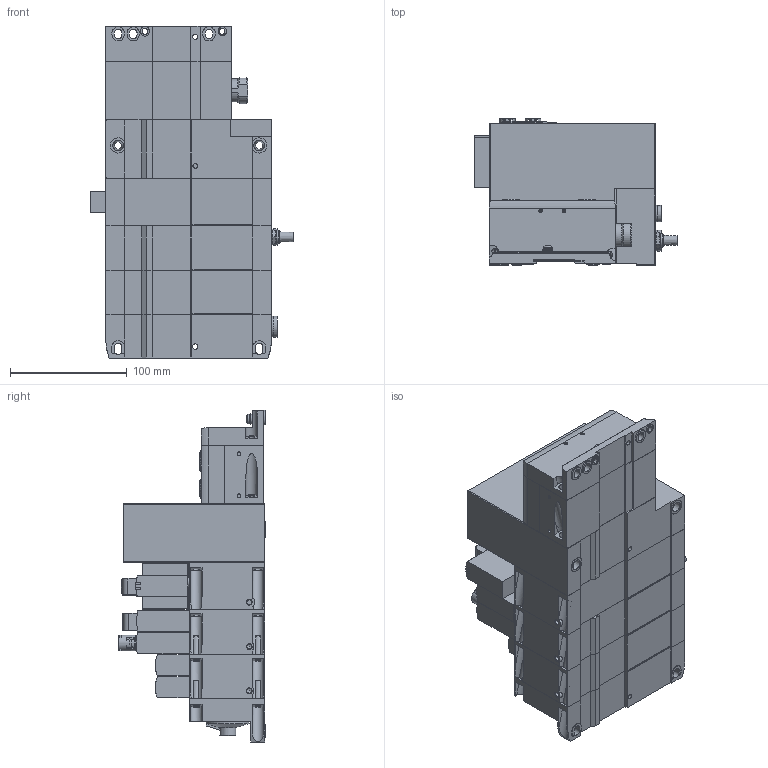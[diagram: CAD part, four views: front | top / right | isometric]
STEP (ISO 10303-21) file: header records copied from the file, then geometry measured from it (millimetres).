
FILE_DESCRIPTION( ( 'STEP AP214' ), '1' );
FILE_NAME( 'p:/temp/worker_1244/temp/exporttempdir_4800_268_Q95se/format_0/Configuration09_8073100_51E-F33GCQP-RC.stp', '2020-07-23T14:51:16', ( 'License CC BY-ND 4.0' ), ( 'CADENAS' ), ' ', 'PARTsolutions', ' ' );
FILE_SCHEMA( ( 'AUTOMOTIVE_DESIGN { 1 0 10303 214 1 1 1 1 }' ) );
Length unit declared in the file: millimetre
Products named in the file (19): 8073100 51E-F33GCQP-RC 46P-B-YZCB-PVPNNGWOGWZQZYBA-CSJLL; HI_8068240 VABA-S6-1-X2-F1-CB---(EPL); HI_8068609 VABV-S6-1Q-G38-CB1-T5---(VKPL_0); _8067405 VABF-S6-1-P5A4S2YE-G12-1T5-PA---(high); _174308 B-M5-B---(VCB); _8068913 VABV-S4-2HS-G18-CB-2T5---(VKPL_0); _3568 B-1/8---(VCB); HI_8066569 VSVA-BT-M32CS1-MYE-A2-1T5L-PA---(VT4617); _1205860 AMTE-M-LH-G18---(VCB); HI_8033450 VSVA-B-B52-ZTR-A2-1T1L---(VT462); _4105147 VAMC-B-S6-CTR---(vtsa_kappe); _8067932 VABV-S4-2HS-G18-CB-2T2---(VKPL_0); HI_539213 VABB-S4-2-WT---(VT465); _539238 VABE-S6-1RZ-G-B1---(PL); _3569 B-1/4---(VCBE); HI_550212 CPX-M-EPL-EV---(EPL_51E); HI_550208 CPX-M-GE-EV-S-7/8-5POL---(EV); HI_548755 CPX-FB33---(EA); HI_548757 CPX-AK-P---(g_2_1)
Assembly tree (20 placements, depth 2):
  8073100 51E-F33GCQP-RC 46P-B-YZCB-PVPNNGWOGWZQZYBA-CSJLL
    HI_8068240 VABA-S6-1-X2-F1-CB---(EPL)
    HI_8068609 VABV-S6-1Q-G38-CB1-T5---(VKPL_0)
    _8067405 VABF-S6-1-P5A4S2YE-G12-1T5-PA---(high)
    _174308 B-M5-B---(VCB)
    _8068913 VABV-S4-2HS-G18-CB-2T5---(VKPL_0)
    _3568 B-1/8---(VCB)
    HI_8066569 VSVA-BT-M32CS1-MYE-A2-1T5L-PA---(VT4617)
    _1205860 AMTE-M-LH-G18---(VCB)
    HI_8033450 VSVA-B-B52-ZTR-A2-1T1L---(VT462)
    _4105147 VAMC-B-S6-CTR---(vtsa_kappe)  x2
    _8067932 VABV-S4-2HS-G18-CB-2T2---(VKPL_0)
    HI_539213 VABB-S4-2-WT---(VT465)  x2
    _539238 VABE-S6-1RZ-G-B1---(PL)
    _3569 B-1/4---(VCBE)
    HI_550212 CPX-M-EPL-EV---(EPL_51E)
    HI_550208 CPX-M-GE-EV-S-7/8-5POL---(EV)
    HI_548755 CPX-FB33---(EA)
    HI_548757 CPX-AK-P---(g_2_1)
Bounding box: 173.6 x 126.04 x 284.8 mm (x, y, z)
Volume: 2708605.5 mm3; surface area: 414441 mm2
Topology: 20 solids, 20 shells, 2437 faces, 6161 edges, 4010 vertices
Faces by surface type: plane 1366, cylinder 791, cone 230, torus 40, bspline 7, sphere 3
Full cylindrical faces by diameter (mm): 1.1 x12, 2 x5, 2.3 x2, 2.459 x4, 2.8 x2, 3 x2, 3.2 x4, 3.242 x10, 3.3 x13, 4 x7, 4.134 x26, 4.3 x1, 4.5 x1, 5 x29, 5.2 x12, 5.5 x8, 5.6 x2, 5.8 x2, 6 x10, 6.4 x3, 6.5 x9, 6.6 x4, 7.2 x2, 7.5 x4, 7.6 x4, 8 x9, 8.2 x2, 8.3 x1, 8.5 x6, 8.566 x8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
Entity records: 86070 total; most frequent: CARTESIAN_POINT 12953, DIRECTION 11655, ORIENTED_EDGE 10410, EDGE_CURVE 5205, AXIS2_PLACEMENT_3D 4308, VERTEX_POINT 3681, EDGE_LOOP 3123, LINE 3039
